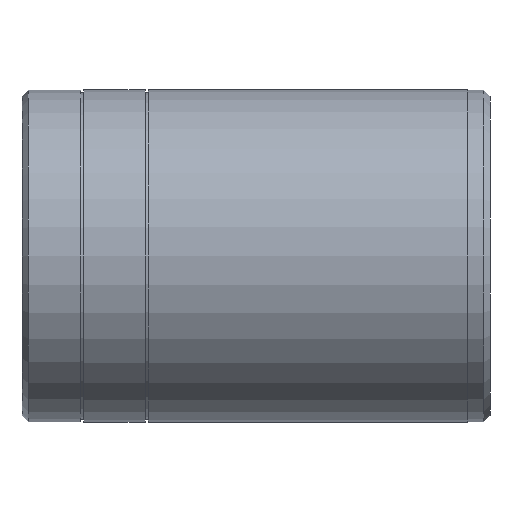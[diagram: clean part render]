
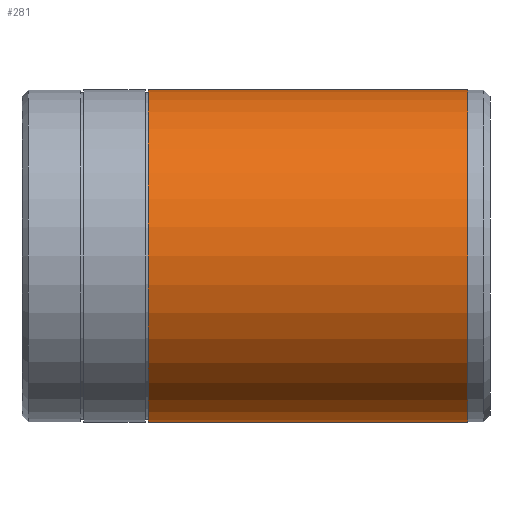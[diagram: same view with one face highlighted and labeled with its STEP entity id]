
A CAD part, front view. The second image highlights one B-rep face of the part: STEP entity #281.
In plain terms, the highlighted cylindrical face has radius 27 mm (diameter 54 mm), a full revolution.
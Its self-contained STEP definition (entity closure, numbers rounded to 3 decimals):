
#20=CYLINDRICAL_SURFACE('',#340,27.);
#50=FACE_OUTER_BOUND('',#73,.T.);
#73=EDGE_LOOP('',(#235,#236,#237,#238));
#88=LINE('',#508,#99);
#99=VECTOR('',#432,27.);
#120=CIRCLE('',#339,27.);
#121=CIRCLE('',#341,27.);
#142=VERTEX_POINT('',#503);
#143=VERTEX_POINT('',#506);
#174=EDGE_CURVE('',#142,#142,#120,.T.);
#175=EDGE_CURVE('',#143,#143,#121,.T.);
#176=EDGE_CURVE('',#143,#142,#88,.T.);
#235=ORIENTED_EDGE('',*,*,#175,.F.);
#236=ORIENTED_EDGE('',*,*,#176,.T.);
#237=ORIENTED_EDGE('',*,*,#174,.T.);
#238=ORIENTED_EDGE('',*,*,#176,.F.);
#281=ADVANCED_FACE('',(#50),#20,.T.);
#339=AXIS2_PLACEMENT_3D('',#504,#426,#427);
#340=AXIS2_PLACEMENT_3D('',#505,#428,#429);
#341=AXIS2_PLACEMENT_3D('',#507,#430,#431);
#426=DIRECTION('center_axis',(1.,0.,0.));
#427=DIRECTION('ref_axis',(0.,0.,-1.));
#428=DIRECTION('center_axis',(1.,0.,0.));
#429=DIRECTION('ref_axis',(0.,1.,0.));
#430=DIRECTION('center_axis',(1.,0.,0.));
#431=DIRECTION('ref_axis',(0.,0.,-1.));
#432=DIRECTION('',(-1.,0.,0.));
#503=CARTESIAN_POINT('',(20.5,-27.,0.));
#504=CARTESIAN_POINT('Origin',(20.5,0.,0.));
#505=CARTESIAN_POINT('Origin',(46.45,0.,0.));
#506=CARTESIAN_POINT('',(72.4,-27.,0.));
#507=CARTESIAN_POINT('Origin',(72.4,0.,0.));
#508=CARTESIAN_POINT('',(46.45,-27.,0.));
